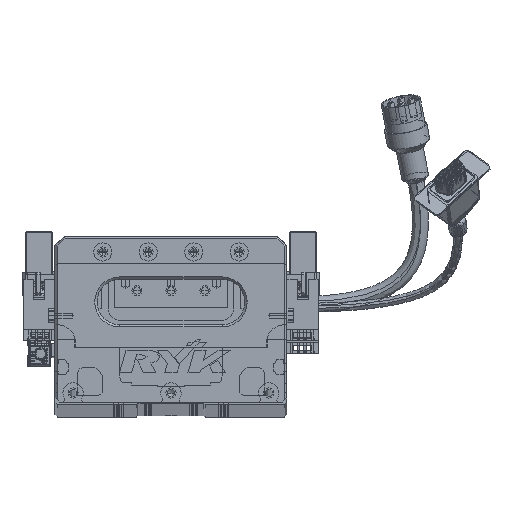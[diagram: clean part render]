
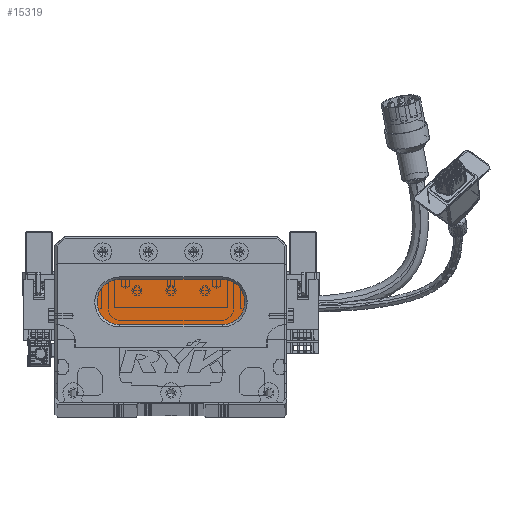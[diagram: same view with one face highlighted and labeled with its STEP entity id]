
A CAD part, top view. The second image highlights one B-rep face of the part: STEP entity #15319.
In plain terms, the highlighted planar face has unit normal (0, 0, 1) as drawn and (0, 0, -1) by its records, which use the part's own axes.
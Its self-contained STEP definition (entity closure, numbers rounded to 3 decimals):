
#7980 = AXIS2_PLACEMENT_3D ( 'NONE', #87806, #43641, #14122 ) ;
#10454 = DIRECTION ( 'NONE',  ( -1., 0., 0. ) ) ;
#14122 = DIRECTION ( 'NONE',  ( -1., 0., 0. ) ) ;
#15319 = ADVANCED_FACE ( 'NONE', ( #45624 ), #62219, .T. ) ;
#18898 = EDGE_CURVE ( 'NONE', #66416, #84687, #59887, .T. ) ;
#19645 = VERTEX_POINT ( 'NONE', #82244 ) ;
#22204 = EDGE_CURVE ( 'NONE', #31419, #66416, #80068, .T. ) ;
#24402 = LINE ( 'NONE', #54617, #67547 ) ;
#28434 = AXIS2_PLACEMENT_3D ( 'NONE', #64949, #87226, #57076 ) ;
#29268 = DIRECTION ( 'NONE',  ( -1., 0., 0. ) ) ;
#30259 = CARTESIAN_POINT ( 'NONE',  ( 73.5, 54., 13. ) ) ;
#31403 = EDGE_CURVE ( 'NONE', #19645, #50236, #52761, .T. ) ;
#31419 = VERTEX_POINT ( 'NONE', #44134 ) ;
#37540 = CARTESIAN_POINT ( 'NONE',  ( 73.5, 34., 13. ) ) ;
#37767 = DIRECTION ( 'NONE',  ( 0., 0., -1. ) ) ;
#38739 = AXIS2_PLACEMENT_3D ( 'NONE', #47308, #75542, #10454 ) ;
#41073 = ORIENTED_EDGE ( 'NONE', *, *, #43060, .T. ) ;
#41549 = CARTESIAN_POINT ( 'NONE',  ( 18.5, 44., 13. ) ) ;
#43060 = EDGE_CURVE ( 'NONE', #50236, #31419, #68331, .T. ) ;
#43641 = DIRECTION ( 'NONE',  ( 0., 0., -1. ) ) ;
#44134 = CARTESIAN_POINT ( 'NONE',  ( 28.5, 54., 13. ) ) ;
#45624 = FACE_OUTER_BOUND ( 'NONE', #61131, .T. ) ;
#47308 = CARTESIAN_POINT ( 'NONE',  ( 73.5, 44., 13. ) ) ;
#50236 = VERTEX_POINT ( 'NONE', #41549 ) ;
#52761 = CIRCLE ( 'NONE', #54963, 10. ) ;
#54617 = CARTESIAN_POINT ( 'NONE',  ( 73.5, 34., 13. ) ) ;
#54963 = AXIS2_PLACEMENT_3D ( 'NONE', #73954, #37767, #29268 ) ;
#56228 = VECTOR ( 'NONE', #81342, 1000. ) ;
#56767 = ORIENTED_EDGE ( 'NONE', *, *, #61851, .T. ) ;
#57076 = DIRECTION ( 'NONE',  ( -1., 0., 0. ) ) ;
#59887 = CIRCLE ( 'NONE', #7980, 10. ) ;
#60461 = ORIENTED_EDGE ( 'NONE', *, *, #22204, .T. ) ;
#61131 = EDGE_LOOP ( 'NONE', ( #68318, #56767, #73365, #41073, #60461 ) ) ;
#61851 = EDGE_CURVE ( 'NONE', #84687, #19645, #24402, .T. ) ;
#62219 = PLANE ( 'NONE',  #38739 ) ;
#64949 = CARTESIAN_POINT ( 'NONE',  ( 28.5, 44., 13. ) ) ;
#66416 = VERTEX_POINT ( 'NONE', #69811 ) ;
#67547 = VECTOR ( 'NONE', #77138, 1000. ) ;
#68318 = ORIENTED_EDGE ( 'NONE', *, *, #18898, .T. ) ;
#68331 = CIRCLE ( 'NONE', #28434, 10. ) ;
#69811 = CARTESIAN_POINT ( 'NONE',  ( 73.5, 54., 13. ) ) ;
#73365 = ORIENTED_EDGE ( 'NONE', *, *, #31403, .T. ) ;
#73954 = CARTESIAN_POINT ( 'NONE',  ( 28.5, 44., 13. ) ) ;
#75542 = DIRECTION ( 'NONE',  ( 0., 0., -1. ) ) ;
#77138 = DIRECTION ( 'NONE',  ( -1., 0., 0. ) ) ;
#80068 = LINE ( 'NONE', #30259, #56228 ) ;
#81342 = DIRECTION ( 'NONE',  ( 1., 0., 0. ) ) ;
#82244 = CARTESIAN_POINT ( 'NONE',  ( 28.5, 34., 13. ) ) ;
#84687 = VERTEX_POINT ( 'NONE', #37540 ) ;
#87226 = DIRECTION ( 'NONE',  ( 0., 0., -1. ) ) ;
#87806 = CARTESIAN_POINT ( 'NONE',  ( 73.5, 44., 13. ) ) ;
